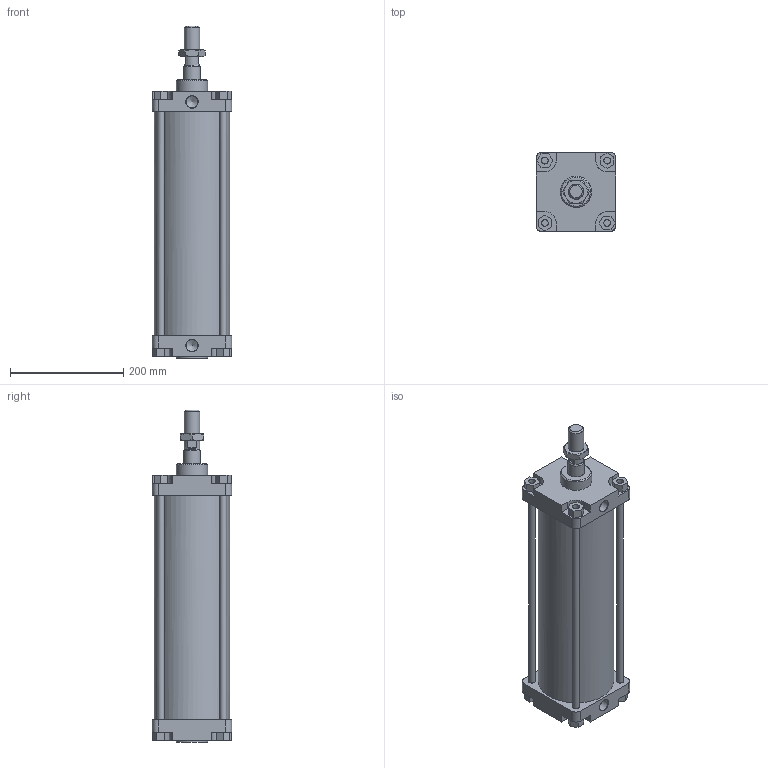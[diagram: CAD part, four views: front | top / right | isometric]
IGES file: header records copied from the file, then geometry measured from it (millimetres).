
Global section: file name: 1305_125_0300_01A; native system: Autodesk Inventor 2014; preprocessor: unknown; author: A. Manieri; date: 20161124.143306; units: millimetre
Bounding box: 140 x 140 x 586 mm (x, y, z)
Volume: 3623016.9 mm3; surface area: 638916.4 mm2
Topology: 9 solids, 9 shells, 175 faces, 440 edges, 295 vertices
Faces by surface type: bspline 175
